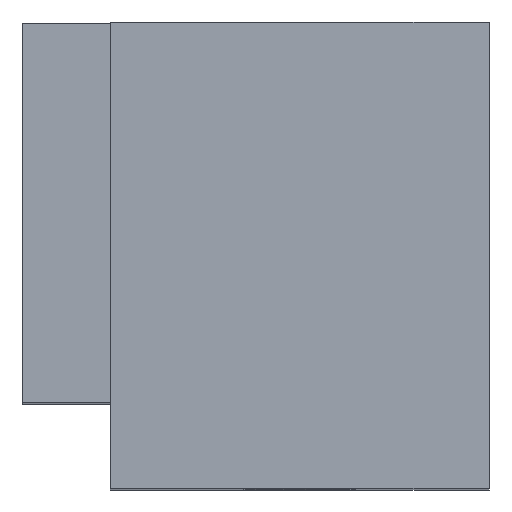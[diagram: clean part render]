
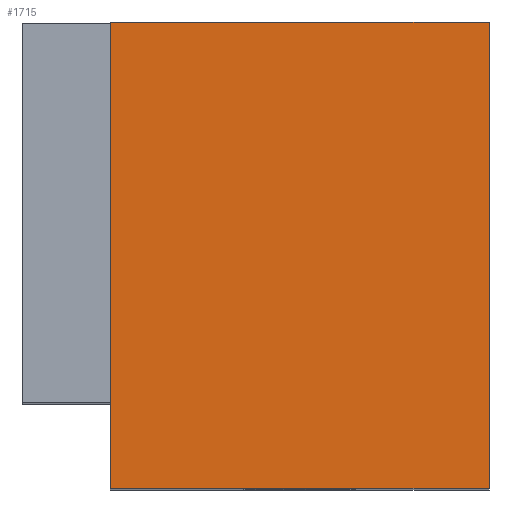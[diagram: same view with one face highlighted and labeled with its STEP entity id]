
A CAD part, top view. The second image highlights one B-rep face of the part: STEP entity #1715.
In plain terms, the highlighted planar face has unit normal (0, 0, 1).
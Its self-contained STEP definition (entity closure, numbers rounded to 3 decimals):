
#1611=CARTESIAN_POINT('',(-6.5,-9.5,0.));
#1612=VERTEX_POINT('',#1611);
#1629=CARTESIAN_POINT('',(6.5,-9.5,0.));
#1630=VERTEX_POINT('',#1629);
#1637=CARTESIAN_POINT('',(6.5,-9.5,0.));
#1638=DIRECTION('',(-1.0,0.0,0.0));
#1639=VECTOR('',#1638,13.0);
#1640=LINE('',#1637,#1639);
#1641=EDGE_CURVE('',#1630,#1612,#1640,.T.);
#1661=CARTESIAN_POINT('',(-6.5,6.5,0.));
#1662=VERTEX_POINT('',#1661);
#1669=CARTESIAN_POINT('',(6.5,6.5,0.));
#1670=VERTEX_POINT('',#1669);
#1671=CARTESIAN_POINT('',(-6.5,6.5,0.));
#1672=DIRECTION('',(1.0,0.0,0.0));
#1673=VECTOR('',#1672,13.0);
#1674=LINE('',#1671,#1673);
#1675=EDGE_CURVE('',#1662,#1670,#1674,.T.);
#1694=CARTESIAN_POINT('',(0.,-1.5,0.));
#1695=DIRECTION('',(0.0,0.0,-1.0));
#1696=DIRECTION('',(0.0,-1.0,0.0));
#1697=AXIS2_PLACEMENT_3D('',#1694,#1695,#1696);
#1698=PLANE('',#1697);
#1699=CARTESIAN_POINT('',(6.5,-9.5,0.));
#1700=DIRECTION('',(0.0,1.0,0.0));
#1701=VECTOR('',#1700,16.0);
#1702=LINE('',#1699,#1701);
#1703=EDGE_CURVE('',#1630,#1670,#1702,.T.);
#1704=ORIENTED_EDGE('',*,*,#1703,.T.);
#1705=ORIENTED_EDGE('',*,*,#1675,.F.);
#1706=CARTESIAN_POINT('',(-6.5,-9.5,0.));
#1707=DIRECTION('',(0.0,1.0,0.0));
#1708=VECTOR('',#1707,16.0);
#1709=LINE('',#1706,#1708);
#1710=EDGE_CURVE('',#1612,#1662,#1709,.T.);
#1711=ORIENTED_EDGE('',*,*,#1710,.F.);
#1712=ORIENTED_EDGE('',*,*,#1641,.F.);
#1713=EDGE_LOOP('',(#1704,#1705,#1711,#1712));
#1714=FACE_OUTER_BOUND('',#1713,.T.);
#1715=ADVANCED_FACE('',(#1714),#1698,.F.);
